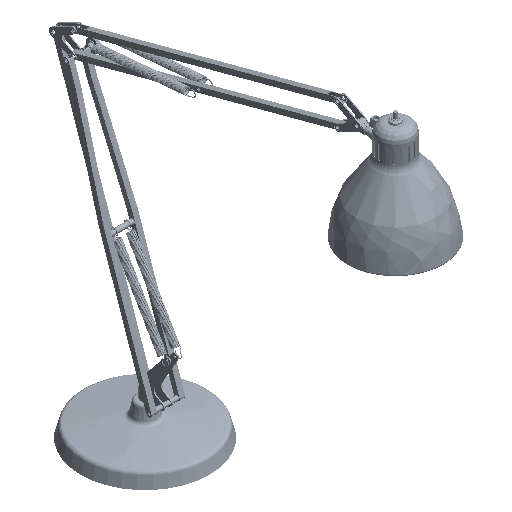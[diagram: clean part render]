
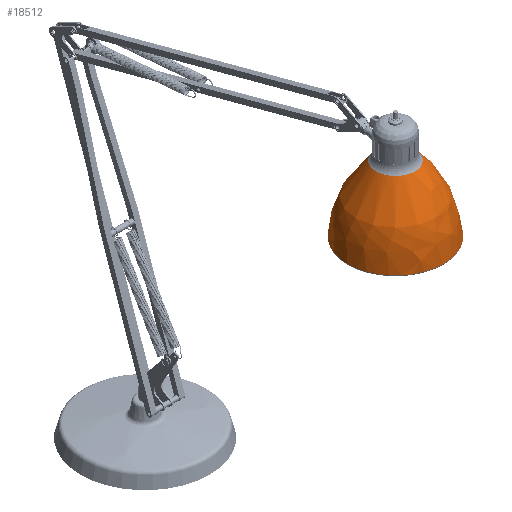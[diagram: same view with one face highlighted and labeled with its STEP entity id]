
A CAD part, isometric view. The second image highlights one B-rep face of the part: STEP entity #18512.
In plain terms, the highlighted free-form (B-spline) face has degree [2, 2] with [3, 9] control points.
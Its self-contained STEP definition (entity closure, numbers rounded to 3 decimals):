
#37=(
BOUNDED_SURFACE()
B_SPLINE_SURFACE(2,2,((#53606,#53607,#53608,#53609,#53610,#53611,#53612,
#53613,#53614),(#53615,#53616,#53617,#53618,#53619,#53620,#53621,#53622,
#53623),(#53624,#53625,#53626,#53627,#53628,#53629,#53630,#53631,#53632)),
 .UNSPECIFIED.,.F.,.T.,.F.)
B_SPLINE_SURFACE_WITH_KNOTS((3,3),(3,2,2,2,3),(0.045,0.773),
(-3.142,-1.571,0.,1.571,3.142),
 .UNSPECIFIED.)
GEOMETRIC_REPRESENTATION_ITEM()
RATIONAL_B_SPLINE_SURFACE(((1.,0.707,1.,0.707,1.,
0.707,1.,0.707,1.),(0.935,0.661,
0.935,0.661,0.935,0.661,0.935,
0.661,0.935),(1.,0.707,1.,0.707,
1.,0.707,1.,0.707,1.)))
REPRESENTATION_ITEM('')
SURFACE()
);
#1966=FACE_OUTER_BOUND('',#2969,.T.);
#2969=EDGE_LOOP('',(#13803,#13804,#13805,#13806,#13807,#13808));
#6654=CIRCLE('',#19894,80.);
#6655=CIRCLE('',#19895,80.);
#6681=CIRCLE('',#19931,32.327);
#6682=CIRCLE('',#19932,32.327);
#6683=CIRCLE('',#19933,168.5);
#7981=VERTEX_POINT('',#52360);
#7982=VERTEX_POINT('',#52361);
#8075=VERTEX_POINT('',#53601);
#8076=VERTEX_POINT('',#53603);
#10103=EDGE_CURVE('',#7981,#7982,#6654,.T.);
#10104=EDGE_CURVE('',#7982,#7981,#6655,.T.);
#10220=EDGE_CURVE('',#8075,#8076,#6681,.T.);
#10221=EDGE_CURVE('',#8076,#8075,#6682,.T.);
#10222=EDGE_CURVE('',#8075,#7982,#6683,.T.);
#13803=ORIENTED_EDGE('',*,*,#10221,.F.);
#13804=ORIENTED_EDGE('',*,*,#10220,.F.);
#13805=ORIENTED_EDGE('',*,*,#10222,.T.);
#13806=ORIENTED_EDGE('',*,*,#10104,.T.);
#13807=ORIENTED_EDGE('',*,*,#10103,.T.);
#13808=ORIENTED_EDGE('',*,*,#10222,.F.);
#18512=ADVANCED_FACE('',(#1966),#37,.F.);
#19894=AXIS2_PLACEMENT_3D('',#52362,#22869,#22870);
#19895=AXIS2_PLACEMENT_3D('',#52363,#22871,#22872);
#19931=AXIS2_PLACEMENT_3D('',#53604,#22983,#22984);
#19932=AXIS2_PLACEMENT_3D('',#53605,#22985,#22986);
#19933=AXIS2_PLACEMENT_3D('',#53633,#22987,#22988);
#22869=DIRECTION('center_axis',(0.,0.,
1.));
#22870=DIRECTION('ref_axis',(-1.,0.,0.));
#22871=DIRECTION('center_axis',(0.,0.,
1.));
#22872=DIRECTION('ref_axis',(-1.,0.,0.));
#22983=DIRECTION('center_axis',(0.,0.,
1.));
#22984=DIRECTION('ref_axis',(-1.,0.,0.));
#22985=DIRECTION('center_axis',(0.,0.,
1.));
#22986=DIRECTION('ref_axis',(-1.,0.,0.));
#22987=DIRECTION('center_axis',(0.,1.,0.));
#22988=DIRECTION('ref_axis',(1.,0.,0.));
#52360=CARTESIAN_POINT('',(-80.7,-418.144,485.852));
#52361=CARTESIAN_POINT('',(79.3,-418.144,485.852));
#52362=CARTESIAN_POINT('Origin',(-0.7,-418.144,485.852));
#52363=CARTESIAN_POINT('Origin',(-0.7,-418.144,485.852));
#53601=CARTESIAN_POINT('',(31.627,-418.144,595.896));
#53603=CARTESIAN_POINT('',(-33.027,-418.144,595.896));
#53604=CARTESIAN_POINT('Origin',(-0.7,-418.144,595.896));
#53605=CARTESIAN_POINT('Origin',(-0.7,-418.144,595.896));
#53606=CARTESIAN_POINT('Ctrl Pts',(79.3,-418.144,485.852));
#53607=CARTESIAN_POINT('Ctrl Pts',(79.3,-338.144,485.852));
#53608=CARTESIAN_POINT('Ctrl Pts',(-0.7,-338.144,
485.852));
#53609=CARTESIAN_POINT('Ctrl Pts',(-80.7,-338.144,
485.852));
#53610=CARTESIAN_POINT('Ctrl Pts',(-80.7,-418.144,
485.852));
#53611=CARTESIAN_POINT('Ctrl Pts',(-80.7,-498.144,
485.852));
#53612=CARTESIAN_POINT('Ctrl Pts',(-0.7,-498.144,
485.852));
#53613=CARTESIAN_POINT('Ctrl Pts',(79.3,-498.144,485.852));
#53614=CARTESIAN_POINT('Ctrl Pts',(79.3,-418.144,485.852));
#53615=CARTESIAN_POINT('Ctrl Pts',(76.415,-418.144,549.951));
#53616=CARTESIAN_POINT('Ctrl Pts',(76.415,-341.029,549.951));
#53617=CARTESIAN_POINT('Ctrl Pts',(-0.7,-341.029,
549.951));
#53618=CARTESIAN_POINT('Ctrl Pts',(-77.815,-341.029,549.951));
#53619=CARTESIAN_POINT('Ctrl Pts',(-77.815,-418.144,
549.951));
#53620=CARTESIAN_POINT('Ctrl Pts',(-77.815,-495.259,
549.951));
#53621=CARTESIAN_POINT('Ctrl Pts',(-0.7,-495.259,
549.951));
#53622=CARTESIAN_POINT('Ctrl Pts',(76.415,-495.259,549.951));
#53623=CARTESIAN_POINT('Ctrl Pts',(76.415,-418.144,549.951));
#53624=CARTESIAN_POINT('Ctrl Pts',(31.627,-418.144,595.896));
#53625=CARTESIAN_POINT('Ctrl Pts',(31.627,-385.817,595.896));
#53626=CARTESIAN_POINT('Ctrl Pts',(-0.7,-385.817,
595.896));
#53627=CARTESIAN_POINT('Ctrl Pts',(-33.027,-385.817,595.896));
#53628=CARTESIAN_POINT('Ctrl Pts',(-33.027,-418.144,
595.896));
#53629=CARTESIAN_POINT('Ctrl Pts',(-33.027,-450.471,595.896));
#53630=CARTESIAN_POINT('Ctrl Pts',(-0.7,-450.471,
595.896));
#53631=CARTESIAN_POINT('Ctrl Pts',(31.627,-450.471,595.896));
#53632=CARTESIAN_POINT('Ctrl Pts',(31.627,-418.144,595.896));
#53633=CARTESIAN_POINT('Origin',(-89.03,-418.144,478.277));
